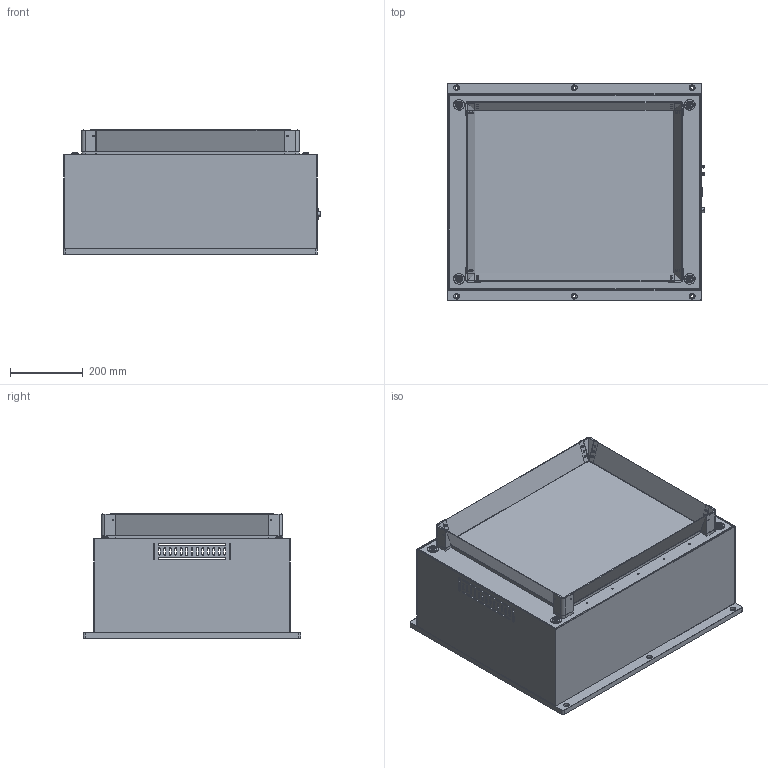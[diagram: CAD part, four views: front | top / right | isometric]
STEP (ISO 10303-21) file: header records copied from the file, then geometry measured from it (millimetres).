
FILE_DESCRIPTION(/* description */ ('STEP AP242','CAx-IF Rec.Pracs.---Representation and Presentation of Product Manufacturing Information (PMI)---4.0---2014-10-13','CAx-IF Rec.Pracs.---3D Tessellated Geometry---0.4---2014-09-14','2;1'),/* implementation_level */ '2;1');
FILE_NAME(/* name */ '6820e77e17136d7c29e3cdc3',/* time_stamp */ '2025-05-11T18:08:00Z',/* author */ (''),/* organization */ (''),/* preprocessor_version */ 'ST-DEVELOPER v20',/* originating_system */ 'ONSHAPE BY PTC INC, 1.197',/* authorisation */ ' ');
FILE_SCHEMA (('AP242_MANAGED_MODEL_BASED_3D_ENGINEERING_MIM_LF { 1 0 10303 442 1 1 4 }'));
Length unit declared in the file: metre
Products named in the file (17): Assembly 1 Copy 1; Part 1; SF1212_S4; Part 3; 1; cerl04F051C8uq0j
Assembly tree (28 placements, depth 2):
  Assembly 1 Copy 1
    Part 1  x4
    Part 1  x4
    Part 1
    SF1212_S4
    Part 3
    1
    Part 1
    Part 1  x2
    Part 1  x4
    Part 1
    Part 1  x2
    cerl04F051C8uq0j
    Part 1  x2
    Part 1
    Part 1
    Part 1
Bounding box: 710 x 600 x 342.68 mm (x, y, z)
Volume: 10670615.1 mm3; surface area: 3313520.3 mm2
Topology: 28 solids, 29 shells, 1472 faces, 3526 edges, 2273 vertices
Faces by surface type: plane 742, cylinder 478, cone 139, bspline 58, torus 40, sphere 15
Full cylindrical faces by diameter (mm): 0.6 x4, 1 x13, 1.05 x3, 1.2 x4, 1.25 x4, 1.3 x8, 2.5 x44, 3 x1, 3.5 x3, 4.2 x24, 4.5 x26, 5 x4, 5.5 x24, 5.6 x1, 5.65 x1, 5.8 x1, 6.5 x7, 6.8 x8, 6.9 x1, 7.051 x1, 7.2 x1, 7.4 x1, 8 x3, 8.1 x1, 8.5 x31, 8.7 x1, 10 x17, 10.5 x1, 11 x1, 12 x2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
Entity records: 38728 total; most frequent: CARTESIAN_POINT 10179, DIRECTION 5601, ORIENTED_EDGE 5126, EDGE_CURVE 2563, AXIS2_PLACEMENT_3D 2138, EDGE_LOOP 1934, FACE_BOUND 1934, VERTEX_POINT 1841
